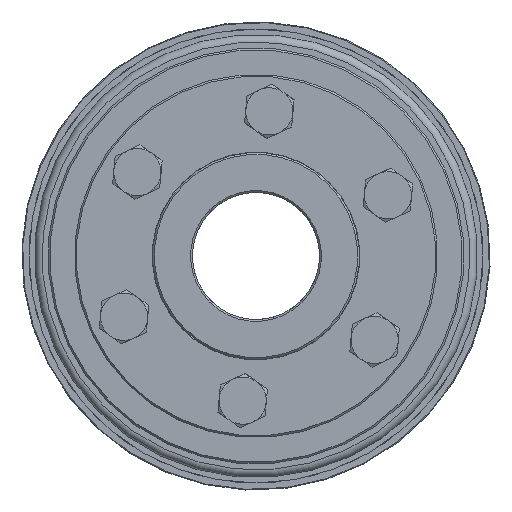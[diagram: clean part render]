
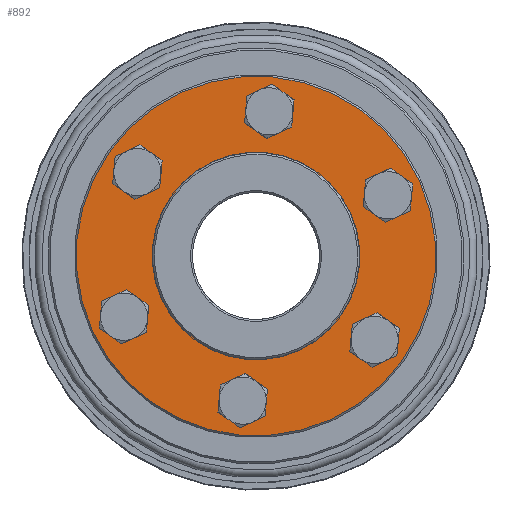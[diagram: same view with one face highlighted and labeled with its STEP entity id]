
A CAD part, left-side view. The second image highlights one B-rep face of the part: STEP entity #892.
In plain terms, the highlighted planar face has unit normal (-1, 0, 0).
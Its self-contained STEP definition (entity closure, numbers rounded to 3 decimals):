
#892 = ADVANCED_FACE( 'NONE', ( #1789, #1790, #1791, #1792, #1793, #1794, #1795, #1796 ), #1797, .F. );
#1789 = FACE_OUTER_BOUND( '', #2808, .T. );
#1790 = FACE_BOUND( '', #2809, .T. );
#1791 = FACE_BOUND( '', #2810, .T. );
#1792 = FACE_BOUND( '', #2811, .T. );
#1793 = FACE_BOUND( '', #2812, .T. );
#1794 = FACE_BOUND( '', #2813, .T. );
#1795 = FACE_BOUND( '', #2814, .T. );
#1796 = FACE_BOUND( '', #2815, .T. );
#1797 = PLANE( '', #2816 );
#2808 = EDGE_LOOP( '', ( #4066 ) );
#2809 = EDGE_LOOP( '', ( #4067 ) );
#2810 = EDGE_LOOP( '', ( #4068 ) );
#2811 = EDGE_LOOP( '', ( #4069 ) );
#2812 = EDGE_LOOP( '', ( #4070 ) );
#2813 = EDGE_LOOP( '', ( #4071 ) );
#2814 = EDGE_LOOP( '', ( #4072 ) );
#2815 = EDGE_LOOP( '', ( #4073 ) );
#2816 = AXIS2_PLACEMENT_3D( '', #4074, #4075, #4076 );
#4066 = ORIENTED_EDGE( '', *, *, #5143, .T. );
#4067 = ORIENTED_EDGE( '', *, *, #5125, .T. );
#4068 = ORIENTED_EDGE( '', *, *, #5205, .T. );
#4069 = ORIENTED_EDGE( '', *, *, #5206, .T. );
#4070 = ORIENTED_EDGE( '', *, *, #5083, .T. );
#4071 = ORIENTED_EDGE( '', *, *, #5080, .T. );
#4072 = ORIENTED_EDGE( '', *, *, #5207, .T. );
#4073 = ORIENTED_EDGE( '', *, *, #5208, .F. );
#4074 = CARTESIAN_POINT( '', ( 0., 28.5, 0. ) );
#4075 = DIRECTION( '', ( 1., 0., 0. ) );
#4076 = DIRECTION( '', ( 0., 1., 0. ) );
#5080 = EDGE_CURVE( 'NONE', #5789, #5789, #5790, .T. );
#5083 = EDGE_CURVE( 'NONE', #5794, #5794, #5795, .T. );
#5125 = EDGE_CURVE( 'NONE', #5857, #5857, #5858, .T. );
#5143 = EDGE_CURVE( 'NONE', #5883, #5883, #5884, .T. );
#5205 = EDGE_CURVE( 'NONE', #5968, #5968, #5969, .T. );
#5206 = EDGE_CURVE( 'NONE', #5970, #5970, #5971, .T. );
#5207 = EDGE_CURVE( 'NONE', #5972, #5972, #5973, .T. );
#5208 = EDGE_CURVE( 'NONE', #5974, #5974, #5975, .T. );
#5789 = VERTEX_POINT( '', #6754 );
#5790 = CIRCLE( '', #6755, 4.5 );
#5794 = VERTEX_POINT( '', #6759 );
#5795 = CIRCLE( '', #6760, 4.5 );
#5857 = VERTEX_POINT( '', #6961 );
#5858 = CIRCLE( '', #6962, 4.5 );
#5883 = VERTEX_POINT( '', #6993 );
#5884 = CIRCLE( '', #6994, 49.5 );
#5968 = VERTEX_POINT( '', #7112 );
#5969 = CIRCLE( '', #7113, 4.5 );
#5970 = VERTEX_POINT( '', #7114 );
#5971 = CIRCLE( '', #7115, 4.5 );
#5972 = VERTEX_POINT( '', #7116 );
#5973 = CIRCLE( '', #7117, 4.5 );
#5974 = VERTEX_POINT( '', #7118 );
#5975 = CIRCLE( '', #7119, 28.5 );
#6754 = CARTESIAN_POINT( '', ( 0., 20., -39.141 ) );
#6755 = AXIS2_PLACEMENT_3D( '', #7950, #7951, #7952 );
#6759 = CARTESIAN_POINT( '', ( 0., -20., -39.141 ) );
#6760 = AXIS2_PLACEMENT_3D( '', #7956, #7957, #7958 );
#6961 = CARTESIAN_POINT( '', ( 0., 20., 30.141 ) );
#6962 = AXIS2_PLACEMENT_3D( '', #8015, #8016, #8017 );
#6993 = CARTESIAN_POINT( '', ( 0., 0., -49.5 ) );
#6994 = AXIS2_PLACEMENT_3D( '', #8042, #8043, #8044 );
#7112 = CARTESIAN_POINT( '', ( 0., -20., 30.141 ) );
#7113 = AXIS2_PLACEMENT_3D( '', #8124, #8125, #8126 );
#7114 = CARTESIAN_POINT( '', ( 0., -40., -4.5 ) );
#7115 = AXIS2_PLACEMENT_3D( '', #8127, #8128, #8129 );
#7116 = CARTESIAN_POINT( '', ( 0., 40., -4.5 ) );
#7117 = AXIS2_PLACEMENT_3D( '', #8130, #8131, #8132 );
#7118 = CARTESIAN_POINT( '', ( 0., 0., 28.5 ) );
#7119 = AXIS2_PLACEMENT_3D( '', #8133, #8134, #8135 );
#7950 = CARTESIAN_POINT( '', ( 0., 20., -34.641 ) );
#7951 = DIRECTION( '', ( 1., 0., 0. ) );
#7952 = DIRECTION( '', ( 0., 0., -1. ) );
#7956 = CARTESIAN_POINT( '', ( 0., -20., -34.641 ) );
#7957 = DIRECTION( '', ( 1., 0., 0. ) );
#7958 = DIRECTION( '', ( 0., 0., -1. ) );
#8015 = CARTESIAN_POINT( '', ( 0., 20., 34.641 ) );
#8016 = DIRECTION( '', ( 1., 0., 0. ) );
#8017 = DIRECTION( '', ( 0., 0., -1. ) );
#8042 = CARTESIAN_POINT( '', ( 0., 0., 0. ) );
#8043 = DIRECTION( '', ( -1., 0., 0. ) );
#8044 = DIRECTION( '', ( 0., 0., -1. ) );
#8124 = CARTESIAN_POINT( '', ( 0., -20., 34.641 ) );
#8125 = DIRECTION( '', ( 1., 0., 0. ) );
#8126 = DIRECTION( '', ( 0., 0., -1. ) );
#8127 = CARTESIAN_POINT( '', ( 0., -40., 0. ) );
#8128 = DIRECTION( '', ( 1., 0., 0. ) );
#8129 = DIRECTION( '', ( 0., 0., -1. ) );
#8130 = CARTESIAN_POINT( '', ( 0., 40., 0. ) );
#8131 = DIRECTION( '', ( 1., 0., 0. ) );
#8132 = DIRECTION( '', ( 0., 0., -1. ) );
#8133 = CARTESIAN_POINT( '', ( 0., 0., 0. ) );
#8134 = DIRECTION( '', ( -1., 0., 0. ) );
#8135 = DIRECTION( '', ( 0., 0., 1. ) );
